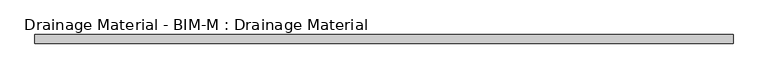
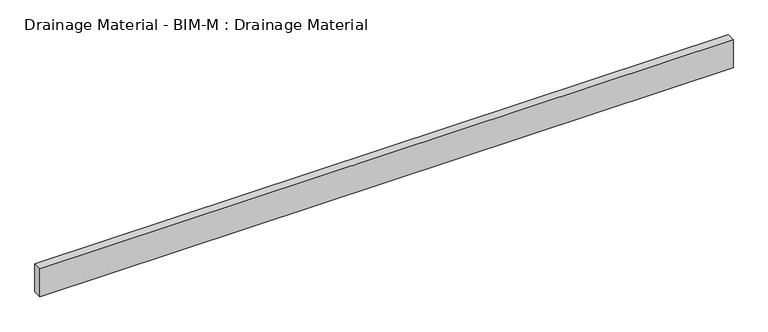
"""IFC4 building model written with IfcOpenShell, lengths in millimetres: proxy geometry, Drainage Material - BIM-M : Drainage Material."""

import ifcopenshell
import ifcopenshell.guid

model = None  # the IFC model being written
_history = None  # IfcOwnerHistory: only IFC2X3 demands one
_inside = {}  # id of a spatial element -> (the spatial element, [elements in it])
_under = {}  # id of a project, library or spatial element -> (it, [spatial elements below it])
_declared = {}  # id of a project -> (the project, [libraries it declares])
_typed = {}  # id of a type object -> (the type object, [elements of that type])
_made_of = {}  # id of a material, layer set ... -> (it, [elements and type objects made of it])


def new_model(schema):
    """Start an empty IFC model of exactly this schema.

    Asked for "IFC4X3", IfcOpenShell would pick the latest addendum, in which some entities
    have other attributes; the version numbers below select the first issue.
    IFC2X3 requires an IfcOwnerHistory on every rooted entity: one is made here for all.
    """
    global model, _history
    if schema == "IFC4X3":
        model = ifcopenshell.file(schema_version=(4, 3, 0, 0))
    else:
        model = ifcopenshell.file(schema=schema)
    _inside.clear()
    _under.clear()
    _declared.clear()
    _typed.clear()
    _made_of.clear()
    _history = None
    if model.schema == "IFC2X3":
        org = make("IfcOrganization", Name="unknown")
        user = make(
            "IfcPersonAndOrganization",
            ThePerson=make("IfcPerson", FamilyName="unknown"),
            TheOrganization=org,
        )
        app = make(
            "IfcApplication",
            ApplicationDeveloper=org,
            Version="unknown",
            ApplicationFullName="unknown",
            ApplicationIdentifier="unknown",
        )
        _history = make(
            "IfcOwnerHistory",
            OwningUser=user,
            OwningApplication=app,
            ChangeAction="ADDED",
            CreationDate=0,
        )
    return model


def make(cls, **values):
    """One entity of the class cls with the attributes given. An attribute that is None is left unset."""
    return model.create_entity(
        cls, **{name: value for name, value in values.items() if value is not None}
    )


def rooted(cls, **values):
    """An entity with a GlobalId (a new one), such as an element, a storey or a relation."""
    return make(cls, GlobalId=ifcopenshell.guid.new(), OwnerHistory=_history, **values)


def si_unit(unit_type, name, prefix=None):
    """IfcSIUnit, for example si_unit("LENGTHUNIT", "METRE", prefix="MILLI")."""
    return make("IfcSIUnit", UnitType=unit_type, Prefix=prefix, Name=name)


def assignment(units):
    """IfcUnitAssignment: the units of a project."""
    return None if units is None else make("IfcUnitAssignment", Units=units)


def point(xyz):
    """IfcCartesianPoint."""
    return None if xyz is None else make("IfcCartesianPoint", Coordinates=xyz)


def direction(xyz):
    """IfcDirection."""
    return None if xyz is None else make("IfcDirection", DirectionRatios=xyz)


def frame(location, z_axis=None, x_axis=None):
    """IfcAxis2Placement3D, a coordinate frame: its origin and axes. An axis left out is left unset."""
    return make(
        "IfcAxis2Placement3D",
        Location=point(location),
        Axis=direction(z_axis),
        RefDirection=direction(x_axis),
    )


def origin():
    """The frame at (0, 0, 0) with its axes left unset."""
    return frame((0.0, 0.0, 0.0))


def origin_with_axes():
    """The frame at (0, 0, 0) with the z axis (0, 0, 1) and the x axis (1, 0, 0) written out."""
    return frame((0.0, 0.0, 0.0), z_axis=(0.0, 0.0, 1.0), x_axis=(1.0, 0.0, 0.0))


def place(relative_to, where):
    """IfcLocalPlacement: puts the frame where relative to a parent placement (None: the world)."""
    return make(
        "IfcLocalPlacement", PlacementRelTo=relative_to, RelativePlacement=where
    )


def context(
    kind, dimensions, precision=None, world=None, true_north=None, identifier=None
):
    """IfcGeometricRepresentationContext, for example the 3D "Model" context."""
    return make(
        "IfcGeometricRepresentationContext",
        ContextIdentifier=identifier,
        ContextType=kind,
        CoordinateSpaceDimension=dimensions,
        Precision=precision,
        WorldCoordinateSystem=world,
        TrueNorth=true_north,
    )


def project(units=None, contexts=None):
    """IfcProject with its units and contexts."""
    return rooted(
        "IfcProject",
        Name="project",
        RepresentationContexts=contexts,
        UnitsInContext=assignment(units),
    )


def spatial(cls, under=None, at=None, **own):
    """A site, building, storey or space (cls), placed at a placement, below another one or the project."""
    s = rooted(cls, ObjectPlacement=at, **own)
    if under is not None:
        _under.setdefault(under.id(), (under, []))[1].append(s)
    return s


def polyline(points):
    """IfcPolyline through the points."""
    return make("IfcPolyline", Points=[point(p) for p in points])


def outline(outer, holes=None, kind="AREA"):
    """IfcArbitraryClosedProfileDef: a profile drawn as a closed curve; with holes, ...WithVoids."""
    if holes is None:
        return make("IfcArbitraryClosedProfileDef", ProfileType=kind, OuterCurve=outer)
    return make(
        "IfcArbitraryProfileDefWithVoids",
        ProfileType=kind,
        OuterCurve=outer,
        InnerCurves=holes,
    )


def extrude(swept, where, along, depth):
    """IfcExtrudedAreaSolid: the profile swept, set in the frame where, extruded along a direction by depth."""
    return make(
        "IfcExtrudedAreaSolid",
        SweptArea=swept,
        Position=where,
        ExtrudedDirection=direction(along),
        Depth=depth,
    )


def shape(context_of_items, identifier, shape_type, items):
    """IfcShapeRepresentation: the items that make up one representation, for example the "Body"."""
    return make(
        "IfcShapeRepresentation",
        ContextOfItems=context_of_items,
        RepresentationIdentifier=identifier,
        RepresentationType=shape_type,
        Items=items,
    )


def source(mapping_origin, context_of_items, identifier, shape_type, items):
    """IfcRepresentationMap: a shape defined once, which mapped items show again and again."""
    return make(
        "IfcRepresentationMap",
        MappingOrigin=mapping_origin,
        MappedRepresentation=shape(context_of_items, identifier, shape_type, items),
    )


def transform(
    local_origin,
    x_axis=None,
    y_axis=None,
    z_axis=None,
    scale=None,
    scale2=None,
    scale3=None,
    uniform=True,
):
    """IfcCartesianTransformationOperator3D, or its non-uniform kind. x_axis, y_axis, z_axis: its Axis1, 2, 3."""
    if uniform:
        return make(
            "IfcCartesianTransformationOperator3D",
            Axis1=direction(x_axis),
            Axis2=direction(y_axis),
            LocalOrigin=point(local_origin),
            Scale=scale,
            Axis3=direction(z_axis),
        )
    return make(
        "IfcCartesianTransformationOperator3DnonUniform",
        Axis1=direction(x_axis),
        Axis2=direction(y_axis),
        LocalOrigin=point(local_origin),
        Scale=scale,
        Axis3=direction(z_axis),
        Scale2=scale2,
        Scale3=scale3,
    )


def mapped(mapping_source, mapping_target):
    """IfcMappedItem: shows the shape of a source again, moved by a transform."""
    return make(
        "IfcMappedItem", MappingSource=mapping_source, MappingTarget=mapping_target
    )


def made_of(thing, what):
    """Note that an element or type object is made of a material, layer set ...; save() writes the relation."""
    if what is not None:
        _made_of.setdefault(what.id(), (what, []))[1].append(thing)
    return thing


def element(
    cls,
    number,
    at=None,
    inside=None,
    cuts=None,
    type_object=None,
    material=None,
    context=None,
    identifier="Body",
    shape_type=None,
    held_by="IfcProductDefinitionShape",
    body=None,
    shapes=None,
    **own,
):
    """One element of the class cls, such as IfcWall. Its Tag is "e" and its number.

    at: its placement. inside: the storey or other place that contains it. cuts: it is an
    opening in that element (IfcRelVoidsElement). A single representation is given by context,
    identifier, shape_type and body (its items); several are given by shapes. held_by: the class
    of the entity that holds the representations. save() writes the other relations.
    """
    e = rooted(cls, Tag="e%d" % number, ObjectPlacement=at, **own)
    if body is not None:
        shapes = [shape(context, identifier, shape_type, body)]
    if shapes is not None:
        e.Representation = make(held_by, Representations=shapes)
    if inside is not None:
        _inside.setdefault(inside.id(), (inside, []))[1].append(e)
    if cuts is not None:
        rooted(
            "IfcRelVoidsElement", RelatingBuildingElement=cuts, RelatedOpeningElement=e
        )
    if type_object is not None:
        _typed.setdefault(type_object.id(), (type_object, []))[1].append(e)
    return made_of(e, material)


def aggregate(whole, parts):
    """IfcRelAggregates: a whole, such as a stair, and the parts it consists of."""
    return rooted("IfcRelAggregates", RelatingObject=whole, RelatedObjects=parts)


def save(model, path):
    """Write the relations noted so far, then the file.

    IfcRelAggregates (storeys below a building ...), IfcRelContainedInSpatialStructure (elements
    in a storey), IfcRelDefinesByType, IfcRelAssociatesMaterial and IfcRelDeclares: one each for
    every whole, place, type object, material and project.
    """
    for whole, parts in _under.values():
        aggregate(whole, parts)
    for where, things in _inside.values():
        rooted(
            "IfcRelContainedInSpatialStructure",
            RelatedElements=things,
            RelatingStructure=where,
        )
    for kind, things in _typed.values():
        rooted("IfcRelDefinesByType", RelatedObjects=things, RelatingType=kind)
    for what, things in _made_of.values():
        rooted("IfcRelAssociatesMaterial", RelatedObjects=things, RelatingMaterial=what)
    for by, libraries in _declared.values():
        rooted("IfcRelDeclares", RelatingContext=by, RelatedDefinitions=libraries)
    model.write(path)


def drainage_material_bim_m_drainage_material_cb361eb9(model_context):
    return source(origin(), model_context, "Body", "SweptSolid", [
        extrude(outline(polyline([(1790.6754587, 22.225), (1790.6754587, -22.225), (-1790.6754587, -22.225), (-1790.6754587, 22.225), (1790.6754587, 22.225)])), origin_with_axes(), (0.0, 0.0, 1.0), 152.4),
    ])


if __name__ == "__main__":
    model = new_model("IFC4")
    model_context = context("Model", 3, world=origin())
    ifc_project = project(units=[si_unit("LENGTHUNIT", "METRE", prefix="MILLI")], contexts=[model_context])
    site = spatial("IfcSite", under=ifc_project)
    building = spatial("IfcBuilding", under=site)
    placement = place(None, origin())
    drainage_material_bim_m_drainage_material_shape = drainage_material_bim_m_drainage_material_cb361eb9(model_context)
    element("IfcBuildingElementProxy", 1, Name="Drainage Material - BIM-M : Drainage Material", ObjectType="Drainage Material - BIM-M : Drainage Material", at=placement, inside=building, context=model_context, shape_type="MappedRepresentation", body=[
        mapped(drainage_material_bim_m_drainage_material_shape, transform((0.0, 0.0, 0.0), x_axis=(1.0, 0.0, 0.0), y_axis=(0.0, 1.0, 0.0), z_axis=(0.0, 0.0, 1.0))),
    ])
    save(model, "model.ifc")
